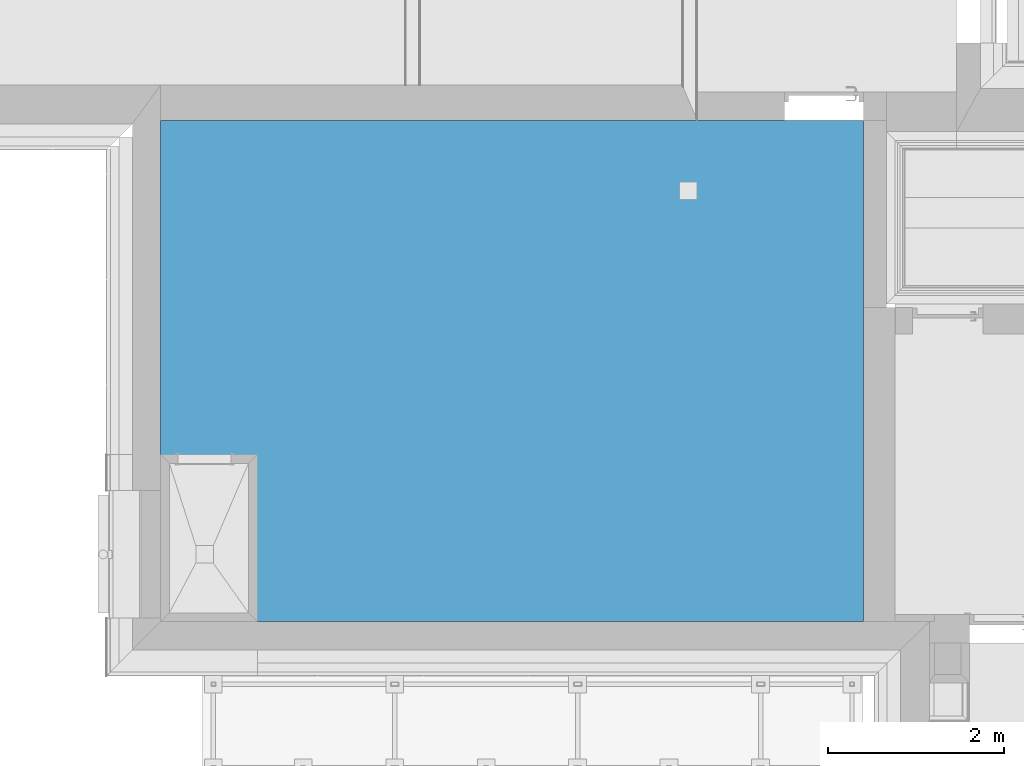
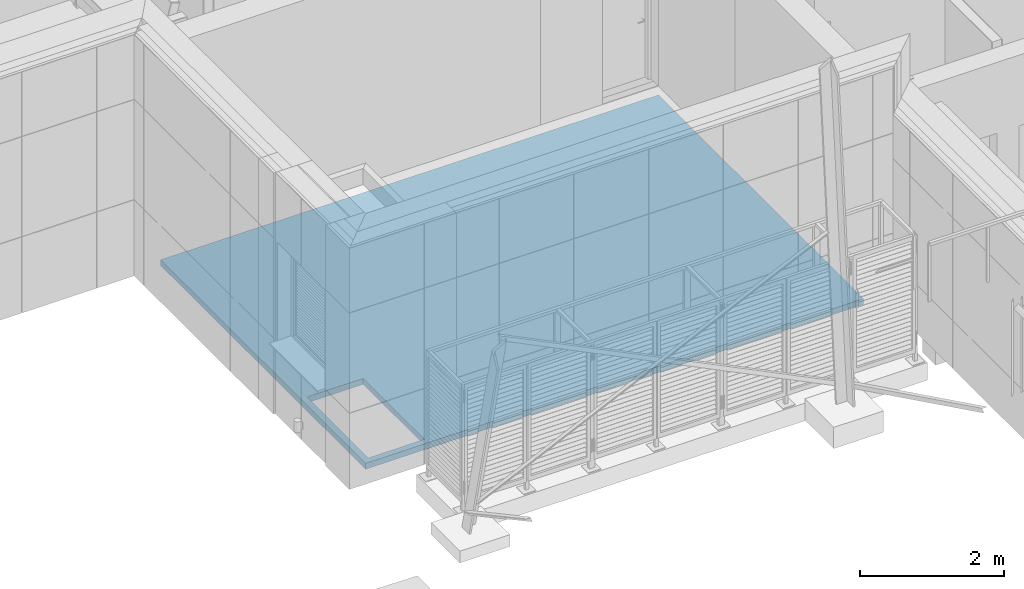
# One storey, part 115 of 418: 1 building element part, 1 opening, 1 element without a shape of its own.
"""IFC2X3 building model written with IfcOpenShell, lengths in millimetres."""

import ifcopenshell
import ifcopenshell.guid

model = None  # the IFC model being written
_history = None  # IfcOwnerHistory: only IFC2X3 demands one
_inside = {}  # id of a spatial element -> (the spatial element, [elements in it])
_under = {}  # id of a project, library or spatial element -> (it, [spatial elements below it])
_declared = {}  # id of a project -> (the project, [libraries it declares])
_typed = {}  # id of a type object -> (the type object, [elements of that type])
_made_of = {}  # id of a material, layer set ... -> (it, [elements and type objects made of it])


def new_model(schema):
    """Start an empty IFC model of exactly this schema.

    Asked for "IFC4X3", IfcOpenShell would pick the latest addendum, in which some entities
    have other attributes; the version numbers below select the first issue.
    IFC2X3 requires an IfcOwnerHistory on every rooted entity: one is made here for all.
    """
    global model, _history
    if schema == "IFC4X3":
        model = ifcopenshell.file(schema_version=(4, 3, 0, 0))
    else:
        model = ifcopenshell.file(schema=schema)
    _inside.clear()
    _under.clear()
    _declared.clear()
    _typed.clear()
    _made_of.clear()
    _history = None
    if model.schema == "IFC2X3":
        org = make("IfcOrganization", Name="unknown")
        user = make(
            "IfcPersonAndOrganization",
            ThePerson=make("IfcPerson", FamilyName="unknown"),
            TheOrganization=org,
        )
        app = make(
            "IfcApplication",
            ApplicationDeveloper=org,
            Version="unknown",
            ApplicationFullName="unknown",
            ApplicationIdentifier="unknown",
        )
        _history = make(
            "IfcOwnerHistory",
            OwningUser=user,
            OwningApplication=app,
            ChangeAction="ADDED",
            CreationDate=0,
        )
    return model


def make(cls, **values):
    """One entity of the class cls with the attributes given. An attribute that is None is left unset."""
    return model.create_entity(
        cls, **{name: value for name, value in values.items() if value is not None}
    )


def entity(cls, *values):
    """Any entity or typed value of the class cls, its attributes in the order of the schema. None: left unset."""
    e = model.create_entity(cls)
    for i, value in enumerate(values):
        if value is not None:
            e[i] = value
    return e


def rooted(cls, **values):
    """An entity with a GlobalId (a new one), such as an element, a storey or a relation."""
    return make(cls, GlobalId=ifcopenshell.guid.new(), OwnerHistory=_history, **values)


def si_unit(unit_type, name, prefix=None):
    """IfcSIUnit, for example si_unit("LENGTHUNIT", "METRE", prefix="MILLI")."""
    return make("IfcSIUnit", UnitType=unit_type, Prefix=prefix, Name=name)


def converted_unit(unit_type, name, factor, base, dimensions=None, offset=None):
    """IfcConversionBasedUnit, such as the inch: factor (a typed value) times the base unit."""
    return make(
        "IfcConversionBasedUnit"
        if offset is None
        else "IfcConversionBasedUnitWithOffset",
        ConversionOffset=offset,
        Dimensions=None
        if dimensions is None
        else entity("IfcDimensionalExponents", *dimensions),
        UnitType=unit_type,
        Name=name,
        ConversionFactor=make(
            "IfcMeasureWithUnit", ValueComponent=factor, UnitComponent=base
        ),
    )


def derived_unit(unit_type, elements):
    """IfcDerivedUnit: a product of units, each with its exponent."""
    return make(
        "IfcDerivedUnit",
        Elements=[
            make("IfcDerivedUnitElement", Unit=unit, Exponent=power)
            for unit, power in elements
        ],
        UnitType=unit_type,
    )


def money_unit(currency):
    """IfcMonetaryUnit."""
    return make("IfcMonetaryUnit", Currency=currency)


def assignment(units):
    """IfcUnitAssignment: the units of a project."""
    return None if units is None else make("IfcUnitAssignment", Units=units)


def point(xyz):
    """IfcCartesianPoint."""
    return None if xyz is None else make("IfcCartesianPoint", Coordinates=xyz)


def direction(xyz):
    """IfcDirection."""
    return None if xyz is None else make("IfcDirection", DirectionRatios=xyz)


def frame(location, z_axis=None, x_axis=None):
    """IfcAxis2Placement3D, a coordinate frame: its origin and axes. An axis left out is left unset."""
    return make(
        "IfcAxis2Placement3D",
        Location=point(location),
        Axis=direction(z_axis),
        RefDirection=direction(x_axis),
    )


def origin_with_axes():
    """The frame at (0, 0, 0) with the z axis (0, 0, 1) and the x axis (1, 0, 0) written out."""
    return frame((0.0, 0.0, 0.0), z_axis=(0.0, 0.0, 1.0), x_axis=(1.0, 0.0, 0.0))


def place(relative_to, where):
    """IfcLocalPlacement: puts the frame where relative to a parent placement (None: the world)."""
    return make(
        "IfcLocalPlacement", PlacementRelTo=relative_to, RelativePlacement=where
    )


def context(
    kind, dimensions, precision=None, world=None, true_north=None, identifier=None
):
    """IfcGeometricRepresentationContext, for example the 3D "Model" context."""
    return make(
        "IfcGeometricRepresentationContext",
        ContextIdentifier=identifier,
        ContextType=kind,
        CoordinateSpaceDimension=dimensions,
        Precision=precision,
        WorldCoordinateSystem=world,
        TrueNorth=true_north,
    )


def subcontext(parent, identifier, kind, view, scale=None):
    """IfcGeometricRepresentationSubContext, for example "Body" below "Model"."""
    return make(
        "IfcGeometricRepresentationSubContext",
        ContextIdentifier=identifier,
        ContextType=kind,
        ParentContext=parent,
        TargetScale=scale,
        TargetView=view,
    )


def project(units=None, contexts=None):
    """IfcProject with its units and contexts."""
    return rooted(
        "IfcProject",
        Name="project",
        RepresentationContexts=contexts,
        UnitsInContext=assignment(units),
    )


def spatial(cls, under=None, at=None, **own):
    """A site, building, storey or space (cls), placed at a placement, below another one or the project."""
    s = rooted(cls, ObjectPlacement=at, **own)
    if under is not None:
        _under.setdefault(under.id(), (under, []))[1].append(s)
    return s


def polyline(points):
    """IfcPolyline through the points."""
    return make("IfcPolyline", Points=[point(p) for p in points])


def outline(outer, holes=None, kind="AREA"):
    """IfcArbitraryClosedProfileDef: a profile drawn as a closed curve; with holes, ...WithVoids."""
    if holes is None:
        return make("IfcArbitraryClosedProfileDef", ProfileType=kind, OuterCurve=outer)
    return make(
        "IfcArbitraryProfileDefWithVoids",
        ProfileType=kind,
        OuterCurve=outer,
        InnerCurves=holes,
    )


def extrude(swept, where, along, depth):
    """IfcExtrudedAreaSolid: the profile swept, set in the frame where, extruded along a direction by depth."""
    return make(
        "IfcExtrudedAreaSolid",
        SweptArea=swept,
        Position=where,
        ExtrudedDirection=direction(along),
        Depth=depth,
    )


def boolean(op, a, b):
    """IfcBooleanResult of two solids."""
    return make("IfcBooleanResult", Operator=op, FirstOperand=a, SecondOperand=b)


def faces_of(points, faces, orient=None, outer=None):
    """IfcFace entities. A face is a list of loops; a loop is a list of indices into points, from 0.

    orient and outer hold one flag for each loop. By default every Orientation is true, the
    first loop of a face is its IfcFaceOuterBound and the others are IfcFaceBound.
    """
    made = []
    for i, loops in enumerate(faces):
        bounds = []
        for j, loop in enumerate(loops):
            is_outer = j == 0 if outer is None else outer[i][j]
            bounds.append(
                make(
                    "IfcFaceOuterBound" if is_outer else "IfcFaceBound",
                    Bound=make("IfcPolyLoop", Polygon=[points[k] for k in loop]),
                    Orientation=True if orient is None else orient[i][j],
                )
            )
        made.append(make("IfcFace", Bounds=bounds))
    return made


def faceted_brep(points, faces, orient=None, outer=None, voids=None):
    """IfcFacetedBrep: a solid bounded by flat faces; with voids (closed shells), ...WithVoids."""
    shared = [point(p) for p in points]
    hull = make("IfcClosedShell", CfsFaces=faces_of(shared, faces, orient, outer))
    if voids is None:
        return make("IfcFacetedBrep", Outer=hull)
    return make(
        "IfcFacetedBrepWithVoids",
        Outer=hull,
        Voids=[
            make(cls, CfsFaces=faces_of(shared, fs, o, b)) for cls, fs, o, b in voids
        ],
    )


def shape(context_of_items, identifier, shape_type, items):
    """IfcShapeRepresentation: the items that make up one representation, for example the "Body"."""
    return make(
        "IfcShapeRepresentation",
        ContextOfItems=context_of_items,
        RepresentationIdentifier=identifier,
        RepresentationType=shape_type,
        Items=items,
    )


def material(Name=None, Category=None):
    """IfcMaterial."""
    return make("IfcMaterial", Name=Name, Category=Category)


def made_of(thing, what):
    """Note that an element or type object is made of a material, layer set ...; save() writes the relation."""
    if what is not None:
        _made_of.setdefault(what.id(), (what, []))[1].append(thing)
    return thing


def type_object(cls, material=None, **own):
    """A type object (cls), such as IfcWallType, which elements share."""
    return made_of(rooted(cls, **own), material)


def element(
    cls,
    number,
    at=None,
    inside=None,
    cuts=None,
    type_object=None,
    material=None,
    context=None,
    identifier="Body",
    shape_type=None,
    held_by="IfcProductDefinitionShape",
    body=None,
    shapes=None,
    **own,
):
    """One element of the class cls, such as IfcWall. Its Tag is "e" and its number.

    at: its placement. inside: the storey or other place that contains it. cuts: it is an
    opening in that element (IfcRelVoidsElement). A single representation is given by context,
    identifier, shape_type and body (its items); several are given by shapes. held_by: the class
    of the entity that holds the representations. save() writes the other relations.
    """
    e = rooted(cls, Tag="e%d" % number, ObjectPlacement=at, **own)
    if body is not None:
        shapes = [shape(context, identifier, shape_type, body)]
    if shapes is not None:
        e.Representation = make(held_by, Representations=shapes)
    if inside is not None:
        _inside.setdefault(inside.id(), (inside, []))[1].append(e)
    if cuts is not None:
        rooted(
            "IfcRelVoidsElement", RelatingBuildingElement=cuts, RelatedOpeningElement=e
        )
    if type_object is not None:
        _typed.setdefault(type_object.id(), (type_object, []))[1].append(e)
    return made_of(e, material)


def aggregate(whole, parts):
    """IfcRelAggregates: a whole, such as a stair, and the parts it consists of."""
    return rooted("IfcRelAggregates", RelatingObject=whole, RelatedObjects=parts)


def save(model, path):
    """Write the relations noted so far, then the file.

    IfcRelAggregates (storeys below a building ...), IfcRelContainedInSpatialStructure (elements
    in a storey), IfcRelDefinesByType, IfcRelAssociatesMaterial and IfcRelDeclares: one each for
    every whole, place, type object, material and project.
    """
    for whole, parts in _under.values():
        aggregate(whole, parts)
    for where, things in _inside.values():
        rooted(
            "IfcRelContainedInSpatialStructure",
            RelatedElements=things,
            RelatingStructure=where,
        )
    for kind, things in _typed.values():
        rooted("IfcRelDefinesByType", RelatedObjects=things, RelatingType=kind)
    for what, things in _made_of.values():
        rooted("IfcRelAssociatesMaterial", RelatedObjects=things, RelatingMaterial=what)
    for by, libraries in _declared.values():
        rooted("IfcRelDeclares", RelatingContext=by, RelatedDefinitions=libraries)
    model.write(path)


model = new_model("IFC2X3")

# Units and contexts
model_context = context("Model", 3, precision=0.01, world=origin_with_axes(), true_north=direction((0.0, 1.0)))
body_context = subcontext(model_context, "Body", "Model", "MODEL_VIEW")
ifc_project = project(units=[si_unit("LENGTHUNIT", "METRE", prefix="MILLI"), si_unit("AREAUNIT", "SQUARE_METRE"), si_unit("VOLUMEUNIT", "CUBIC_METRE"), converted_unit("PLANEANGLEUNIT", "DEGREE", entity("IfcPlaneAngleMeasure", 0.0174532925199), si_unit("PLANEANGLEUNIT", "RADIAN"), dimensions=[0, 0, 0, 0, 0, 0, 0]), si_unit("SOLIDANGLEUNIT", "STERADIAN"), money_unit("EUR"), converted_unit("TIMEUNIT", "Year", entity("IfcTimeMeasure", 31556926.0), si_unit("TIMEUNIT", "SECOND"), dimensions=[0, 0, 1, 0, 0, 0, 0]), si_unit("MASSUNIT", "GRAM", prefix="KILO"), si_unit("THERMODYNAMICTEMPERATUREUNIT", "DEGREE_CELSIUS"), si_unit("LUMINOUSINTENSITYUNIT", "LUMEN"), si_unit("ENERGYUNIT", "JOULE", prefix="MEGA"), derived_unit("THERMALCONDUCTANCEUNIT", [(si_unit("POWERUNIT", "WATT"), 1), (si_unit("LENGTHUNIT", "METRE"), -1), (si_unit("THERMODYNAMICTEMPERATUREUNIT", "KELVIN"), -1)]), derived_unit("SPECIFICHEATCAPACITYUNIT", [(si_unit("ENERGYUNIT", "JOULE"), 1), (si_unit("MASSUNIT", "GRAM", prefix="KILO"), -1), (si_unit("THERMODYNAMICTEMPERATUREUNIT", "KELVIN"), -1)]), derived_unit("MASSDENSITYUNIT", [(si_unit("MASSUNIT", "GRAM", prefix="KILO"), 1), (si_unit("VOLUMEUNIT", "CUBIC_METRE"), -1)])], contexts=[model_context])

# Site, building, storey
site_placement = place(None, origin_with_axes())
site = spatial("IfcSite", under=ifc_project, at=site_placement, Name="Paldiski mnt 245/1, Tallinn, Harjumaa", CompositionType="COMPLEX")
building_placement = place(site_placement, origin_with_axes())
building = spatial("IfcBuilding", under=site, at=building_placement, Name="RKAS Hoone üldnimetus (kasutust iseloomustav) -> IFC Project Manager -> SOLIBRI", CompositionType="ELEMENT")
storey_placement = place(building_placement, origin_with_axes())
storey = spatial("IfcBuildingStorey", under=building, at=storey_placement, Name="Esimene korrus", CompositionType="ELEMENT", Elevation=0.0)

# Slab, opening, building element part
slab_type = type_object("IfcSlabType", Name="AP-01 350", PredefinedType="NOTDEFINED")
slab_placement = place(storey_placement, frame((-56390.0, 130.000000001, 0.0), z_axis=(0.0, 0.0, 1.0), x_axis=(1.0, 0.0, 0.0)))
slab = element("IfcSlab", 1, at=slab_placement, inside=storey, type_object=slab_type, Name="AP-01", PredefinedType="NOTDEFINED")
opening_placement = place(slab_placement, frame((100.0, 1799.99992126, 0.0), z_axis=(0.0, 0.0, 1.0), x_axis=(0.0, -1.0, 0.0)))
element("IfcOpeningElement", 2, at=opening_placement, cuts=slab, Name="Slab Opening", context=body_context, shape_type="SweptSolid", body=[
    extrude(outline(polyline([(0.0, 0.0), (1699.99992126, 0.0), (1699.99992126, 900.000023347), (0.0, 900.000023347), (0.0, 0.0)])), frame((0.0, 0.0, -350.0), z_axis=(0.0, 0.0, 1.0), x_axis=(1.0, 0.0, 0.0)), (0.0, 0.0, 1.0), 350.0),
])
ifc_material = material(Name="EPS 200")
building_element_part_placement = place(slab_placement, origin_with_axes())
building_element_part = element("IfcBuildingElementPart", 3, at=building_element_part_placement, material=ifc_material, Name="EPS 200", context=body_context, shape_type="CSG", body=[
    boolean("DIFFERENCE", extrude(outline(polyline([(0.0, 0.0), (7990.0, -1.84741111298e-10), (7990.0, 5700.0), (1.42108547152e-10, 5700.0), (0.0, 0.0)])), frame((0.0, 0.0, -250.0), z_axis=(0.0, 0.0, 1.0), x_axis=(1.0, 0.0, 0.0)), (0.0, 0.0, 1.0), 100.0), faceted_brep([(5900.0, 4796.74087395, 0.0), (6100.0, 4796.74087395, 0.0), (6100.0, 4996.74087395, 0.0), (5900.0, 4996.74087395, 0.0), (5900.0, 4796.74087395, -15.0), (6100.0, 4796.74087395, -15.0), (6100.0, 4996.74087395, -15.0), (5900.0, 4996.74087395, -15.0), (5904.0, 4800.74087395, -15.0), (5924.5, 4800.74087395, -15.0), (5924.5, 4821.24087395, -15.0), (5924.5, 4825.24087395, -15.0), (5924.5, 4845.74087395, -15.0), (5924.5, 4849.74087395, -15.0), (5924.5, 4870.24087395, -15.0), (5924.5, 4874.24087395, -15.0), (5924.5, 4894.74087395, -15.0), (5924.5, 4898.74087395, -15.0), (5924.5, 4919.24087395, -15.0), (5924.5, 4923.24087395, -15.0), (5924.5, 4943.74087395, -15.0), (5924.5, 4947.74087395, -15.0), (5924.5, 4968.24087395, -15.0), (5924.5, 4972.24087395, -15.0), (5924.5, 4992.74087395, -15.0), (5928.5, 4992.74087395, -15.0), (5928.5, 4972.24087395, -15.0), (5928.5, 4968.24087395, -15.0), (5928.5, 4947.74087395, -15.0), (5928.5, 4943.74087395, -15.0), (5928.5, 4923.24087395, -15.0), (5928.5, 4919.24087395, -15.0), (5928.5, 4898.74087395, -15.0), (5928.5, 4894.74087395, -15.0), (5928.5, 4874.24087395, -15.0), (5928.5, 4870.24087395, -15.0), (5928.5, 4849.74087395, -15.0), (5928.5, 4845.74087395, -15.0), (5928.5, 4825.24087395, -15.0), (5928.5, 4821.24087395, -15.0), (5928.5, 4800.74087395, -15.0), (5949.0, 4800.74087395, -15.0), (5949.0, 4821.24087395, -15.0), (5949.0, 4825.24087395, -15.0), (5949.0, 4845.74087395, -15.0), (5949.0, 4849.74087395, -15.0), (5949.0, 4870.24087395, -15.0), (5949.0, 4874.24087395, -15.0), (5949.0, 4894.74087395, -15.0), (5949.0, 4898.74087395, -15.0), (5949.0, 4919.24087395, -15.0), (5949.0, 4923.24087395, -15.0), (5949.0, 4943.74087395, -15.0), (5949.0, 4947.74087395, -15.0), (5949.0, 4968.24087395, -15.0), (5949.0, 4972.24087395, -15.0), (5949.0, 4992.74087395, -15.0), (5953.0, 4992.74087395, -15.0), (5953.0, 4972.24087395, -15.0), (5953.0, 4968.24087395, -15.0), (5953.0, 4947.74087395, -15.0), (5953.0, 4943.74087395, -15.0), (5953.0, 4923.24087395, -15.0), (5953.0, 4919.24087395, -15.0), (5953.0, 4898.74087395, -15.0), (5953.0, 4894.74087395, -15.0), (5953.0, 4874.24087395, -15.0), (5953.0, 4870.24087395, -15.0), (5953.0, 4849.74087395, -15.0), (5953.0, 4845.74087395, -15.0), (5953.0, 4825.24087395, -15.0), (5953.0, 4821.24087395, -15.0), (5953.0, 4800.74087395, -15.0), (5973.5, 4800.74087395, -15.0), (5973.5, 4821.24087395, -15.0), (5973.5, 4825.24087395, -15.0), (5973.5, 4845.74087395, -15.0), (5973.5, 4849.74087395, -15.0), (5973.5, 4870.24087395, -15.0), (5973.5, 4874.24087395, -15.0), (5973.5, 4894.74087395, -15.0), (5973.5, 4898.74087395, -15.0), (5973.5, 4919.24087395, -15.0), (5973.5, 4923.24087395, -15.0), (5973.5, 4943.74087395, -15.0), (5973.5, 4947.74087395, -15.0), (5973.5, 4968.24087395, -15.0), (5973.5, 4972.24087395, -15.0), (5973.5, 4992.74087395, -15.0), (5977.5, 4992.74087395, -15.0), (5977.5, 4972.24087395, -15.0), (5977.5, 4968.24087395, -15.0), (5977.5, 4947.74087395, -15.0), (5977.5, 4943.74087395, -15.0), (5977.5, 4923.24087395, -15.0), (5977.5, 4919.24087395, -15.0), (5977.5, 4898.74087395, -15.0), (5977.5, 4894.74087395, -15.0), (5977.5, 4874.24087395, -15.0), (5977.5, 4870.24087395, -15.0), (5977.5, 4849.74087395, -15.0), (5977.5, 4845.74087395, -15.0), (5977.5, 4825.24087395, -15.0), (5977.5, 4821.24087395, -15.0), (5977.5, 4800.74087395, -15.0), (5998.0, 4800.74087395, -15.0), (5998.0, 4821.24087395, -15.0), (5998.0, 4825.24087395, -15.0), (5998.0, 4845.74087395, -15.0), (5998.0, 4849.74087395, -15.0), (5998.0, 4870.24087395, -15.0), (5998.0, 4874.24087395, -15.0), (5998.0, 4894.74087395, -15.0), (5998.0, 4898.74087395, -15.0), (5998.0, 4919.24087395, -15.0), (5998.0, 4923.24087395, -15.0), (5998.0, 4943.74087395, -15.0), (5998.0, 4947.74087395, -15.0), (5998.0, 4968.24087395, -15.0), (5998.0, 4972.24087395, -15.0), (5998.0, 4992.74087395, -15.0), (6002.0, 4992.74087395, -15.0), (6002.0, 4972.24087395, -15.0), (6002.0, 4968.24087395, -15.0), (6002.0, 4947.74087395, -15.0), (6002.0, 4943.74087395, -15.0), (6002.0, 4923.24087395, -15.0), (6002.0, 4919.24087395, -15.0), (6002.0, 4898.74087395, -15.0), (6002.0, 4894.74087395, -15.0), (6002.0, 4874.24087395, -15.0), (6002.0, 4870.24087395, -15.0), (6002.0, 4849.74087395, -15.0), (6002.0, 4845.74087395, -15.0), (6002.0, 4825.24087395, -15.0), (6002.0, 4821.24087395, -15.0), (6002.0, 4800.74087395, -15.0), (6022.5, 4800.74087395, -15.0), (6022.5, 4821.24087395, -15.0), (6022.5, 4825.24087395, -15.0), (6022.5, 4845.74087395, -15.0), (6022.5, 4849.74087395, -15.0), (6022.5, 4870.24087395, -15.0), (6022.5, 4874.24087395, -15.0), (6022.5, 4894.74087395, -15.0), (6022.5, 4898.74087395, -15.0), (6022.5, 4919.24087395, -15.0), (6022.5, 4923.24087395, -15.0), (6022.5, 4943.74087395, -15.0), (6022.5, 4947.74087395, -15.0), (6022.5, 4968.24087395, -15.0), (6022.5, 4972.24087395, -15.0), (6022.5, 4992.74087395, -15.0), (6026.5, 4992.74087395, -15.0), (6026.5, 4972.24087395, -15.0), (6026.5, 4968.24087395, -15.0), (6026.5, 4947.74087395, -15.0), (6026.5, 4943.74087395, -15.0), (6026.5, 4923.24087395, -15.0), (6026.5, 4919.24087395, -15.0), (6026.5, 4898.74087395, -15.0), (6026.5, 4894.74087395, -15.0), (6026.5, 4874.24087395, -15.0), (6026.5, 4870.24087395, -15.0), (6026.5, 4849.74087395, -15.0), (6026.5, 4845.74087395, -15.0), (6026.5, 4825.24087395, -15.0), (6026.5, 4821.24087395, -15.0), (6026.5, 4800.74087395, -15.0), (6047.0, 4800.74087395, -15.0), (6047.0, 4821.24087395, -15.0), (6047.0, 4825.24087395, -15.0), (6047.0, 4845.74087395, -15.0), (6047.0, 4849.74087395, -15.0), (6047.0, 4870.24087395, -15.0), (6047.0, 4874.24087395, -15.0), (6047.0, 4894.74087395, -15.0), (6047.0, 4898.74087395, -15.0), (6047.0, 4919.24087395, -15.0), (6047.0, 4923.24087395, -15.0), (6047.0, 4943.74087395, -15.0), (6047.0, 4947.74087395, -15.0), (6047.0, 4968.24087395, -15.0), (6047.0, 4972.24087395, -15.0), (6047.0, 4992.74087395, -15.0), (6051.0, 4992.74087395, -15.0), (6051.0, 4972.24087395, -15.0), (6051.0, 4968.24087395, -15.0), (6051.0, 4947.74087395, -15.0), (6051.0, 4943.74087395, -15.0), (6051.0, 4923.24087395, -15.0), (6051.0, 4919.24087395, -15.0), (6051.0, 4898.74087395, -15.0), (6051.0, 4894.74087395, -15.0), (6051.0, 4874.24087395, -15.0), (6051.0, 4870.24087395, -15.0), (6051.0, 4849.74087395, -15.0), (6051.0, 4845.74087395, -15.0), (6051.0, 4825.24087395, -15.0), (6051.0, 4821.24087395, -15.0), (6051.0, 4800.74087395, -15.0), (6071.5, 4800.74087395, -15.0), (6071.5, 4821.24087395, -15.0), (6071.5, 4825.24087395, -15.0), (6071.5, 4845.74087395, -15.0), (6071.5, 4849.74087395, -15.0), (6071.5, 4870.24087395, -15.0), (6071.5, 4874.24087395, -15.0), (6071.5, 4894.74087395, -15.0), (6071.5, 4898.74087395, -15.0), (6071.5, 4919.24087395, -15.0), (6071.5, 4923.24087395, -15.0), (6071.5, 4943.74087395, -15.0), (6071.5, 4947.74087395, -15.0), (6071.5, 4968.24087395, -15.0), (6071.5, 4972.24087395, -15.0), (6071.5, 4992.74087395, -15.0), (6075.5, 4992.74087395, -15.0), (6075.5, 4972.24087395, -15.0), (6075.5, 4968.24087395, -15.0), (6075.5, 4947.74087395, -15.0), (6075.5, 4943.74087395, -15.0), (6075.5, 4923.24087395, -15.0), (6075.5, 4919.24087395, -15.0), (6075.5, 4898.74087395, -15.0), (6075.5, 4894.74087395, -15.0), (6075.5, 4874.24087395, -15.0), (6075.5, 4870.24087395, -15.0), (6075.5, 4849.74087395, -15.0), (6075.5, 4845.74087395, -15.0), (6075.5, 4825.24087395, -15.0), (6075.5, 4821.24087395, -15.0), (6075.5, 4800.74087395, -15.0), (6096.0, 4800.74087395, -15.0), (6096.0, 4821.24087395, -15.0), (6096.0, 4825.24087395, -15.0), (6096.0, 4845.74087395, -15.0), (6096.0, 4849.74087395, -15.0), (6096.0, 4870.24087395, -15.0), (6096.0, 4874.24087395, -15.0), (6096.0, 4894.74087395, -15.0), (6096.0, 4898.74087395, -15.0), (6096.0, 4919.24087395, -15.0), (6096.0, 4923.24087395, -15.0), (6096.0, 4943.74087395, -15.0), (6096.0, 4947.74087395, -15.0), (6096.0, 4968.24087395, -15.0), (6096.0, 4972.24087395, -15.0), (6096.0, 4992.74087395, -15.0), (5904.0, 4992.74087395, -15.0), (5904.0, 4972.24087395, -15.0), (5904.0, 4968.24087395, -15.0), (5904.0, 4947.74087395, -15.0), (5904.0, 4943.74087395, -15.0), (5904.0, 4923.24087395, -15.0), (5904.0, 4919.24087395, -15.0), (5904.0, 4898.74087395, -15.0), (5904.0, 4894.74087395, -15.0), (5904.0, 4874.24087395, -15.0), (5904.0, 4870.24087395, -15.0), (5904.0, 4849.74087395, -15.0), (5904.0, 4845.74087395, -15.0), (5904.0, 4825.24087395, -15.0), (5904.0, 4821.24087395, -15.0), (5904.0, 4800.74087395, -13.85), (5924.5, 4800.74087395, -13.85), (5924.5, 4821.24087395, -13.85), (5924.5, 4825.24087395, -13.85), (5924.5, 4845.74087395, -13.85), (5924.5, 4849.74087395, -13.85), (5924.5, 4870.24087395, -13.85), (5924.5, 4874.24087395, -13.85), (5924.5, 4894.74087395, -13.85), (5924.5, 4898.74087395, -13.85), (5924.5, 4919.24087395, -13.85), (5924.5, 4923.24087395, -13.85), (5924.5, 4943.74087395, -13.85), (5924.5, 4947.74087395, -13.85), (5924.5, 4968.24087395, -13.85), (5924.5, 4972.24087395, -13.85), (5924.5, 4992.74087395, -13.85), (5928.5, 4992.74087395, -13.85), (5928.5, 4972.24087395, -13.85), (5928.5, 4968.24087395, -13.85), (5928.5, 4947.74087395, -13.85), (5928.5, 4943.74087395, -13.85), (5928.5, 4923.24087395, -13.85), (5928.5, 4919.24087395, -13.85), (5928.5, 4898.74087395, -13.85), (5928.5, 4894.74087395, -13.85), (5928.5, 4874.24087395, -13.85), (5928.5, 4870.24087395, -13.85), (5928.5, 4849.74087395, -13.85), (5928.5, 4845.74087395, -13.85), (5928.5, 4825.24087395, -13.85), (5928.5, 4821.24087395, -13.85), (5928.5, 4800.74087395, -13.85), (5949.0, 4800.74087395, -13.85), (5949.0, 4821.24087395, -13.85), (5949.0, 4825.24087395, -13.85), (5949.0, 4845.74087395, -13.85), (5949.0, 4849.74087395, -13.85), (5949.0, 4870.24087395, -13.85), (5949.0, 4874.24087395, -13.85), (5949.0, 4894.74087395, -13.85), (5949.0, 4898.74087395, -13.85), (5949.0, 4919.24087395, -13.85), (5949.0, 4923.24087395, -13.85), (5949.0, 4943.74087395, -13.85), (5949.0, 4947.74087395, -13.85), (5949.0, 4968.24087395, -13.85), (5949.0, 4972.24087395, -13.85), (5949.0, 4992.74087395, -13.85), (5953.0, 4992.74087395, -13.85), (5953.0, 4972.24087395, -13.85), (5953.0, 4968.24087395, -13.85), (5953.0, 4947.74087395, -13.85), (5953.0, 4943.74087395, -13.85), (5953.0, 4923.24087395, -13.85), (5953.0, 4919.24087395, -13.85), (5953.0, 4898.74087395, -13.85), (5953.0, 4894.74087395, -13.85), (5953.0, 4874.24087395, -13.85), (5953.0, 4870.24087395, -13.85), (5953.0, 4849.74087395, -13.85), (5953.0, 4845.74087395, -13.85), (5953.0, 4825.24087395, -13.85), (5953.0, 4821.24087395, -13.85), (5953.0, 4800.74087395, -13.85), (5973.5, 4800.74087395, -13.85), (5973.5, 4821.24087395, -13.85), (5973.5, 4825.24087395, -13.85), (5973.5, 4845.74087395, -13.85), (5973.5, 4849.74087395, -13.85), (5973.5, 4870.24087395, -13.85), (5973.5, 4874.24087395, -13.85), (5973.5, 4894.74087395, -13.85), (5973.5, 4898.74087395, -13.85), (5973.5, 4919.24087395, -13.85), (5973.5, 4923.24087395, -13.85), (5973.5, 4943.74087395, -13.85), (5973.5, 4947.74087395, -13.85), (5973.5, 4968.24087395, -13.85), (5973.5, 4972.24087395, -13.85), (5973.5, 4992.74087395, -13.85), (5977.5, 4992.74087395, -13.85), (5977.5, 4972.24087395, -13.85), (5977.5, 4968.24087395, -13.85), (5977.5, 4947.74087395, -13.85), (5977.5, 4943.74087395, -13.85), (5977.5, 4923.24087395, -13.85), (5977.5, 4919.24087395, -13.85), (5977.5, 4898.74087395, -13.85), (5977.5, 4894.74087395, -13.85), (5977.5, 4874.24087395, -13.85), (5977.5, 4870.24087395, -13.85), (5977.5, 4849.74087395, -13.85), (5977.5, 4845.74087395, -13.85), (5977.5, 4825.24087395, -13.85), (5977.5, 4821.24087395, -13.85), (5977.5, 4800.74087395, -13.85), (5998.0, 4800.74087395, -13.85), (5998.0, 4821.24087395, -13.85), (5998.0, 4825.24087395, -13.85), (5998.0, 4845.74087395, -13.85), (5998.0, 4849.74087395, -13.85), (5998.0, 4870.24087395, -13.85), (5998.0, 4874.24087395, -13.85), (5998.0, 4894.74087395, -13.85), (5998.0, 4898.74087395, -13.85), (5998.0, 4919.24087395, -13.85), (5998.0, 4923.24087395, -13.85), (5998.0, 4943.74087395, -13.85), (5998.0, 4947.74087395, -13.85), (5998.0, 4968.24087395, -13.85), (5998.0, 4972.24087395, -13.85), (5998.0, 4992.74087395, -13.85), (6002.0, 4992.74087395, -13.85), (6002.0, 4972.24087395, -13.85), (6002.0, 4968.24087395, -13.85), (6002.0, 4947.74087395, -13.85), (6002.0, 4943.74087395, -13.85), (6002.0, 4923.24087395, -13.85), (6002.0, 4919.24087395, -13.85), (6002.0, 4898.74087395, -13.85), (6002.0, 4894.74087395, -13.85), (6002.0, 4874.24087395, -13.85), (6002.0, 4870.24087395, -13.85), (6002.0, 4849.74087395, -13.85), (6002.0, 4845.74087395, -13.85), (6002.0, 4825.24087395, -13.85), (6002.0, 4821.24087395, -13.85), (6002.0, 4800.74087395, -13.85), (6022.5, 4800.74087395, -13.85), (6022.5, 4821.24087395, -13.85), (6022.5, 4825.24087395, -13.85), (6022.5, 4845.74087395, -13.85), (6022.5, 4849.74087395, -13.85), (6022.5, 4870.24087395, -13.85), (6022.5, 4874.24087395, -13.85), (6022.5, 4894.74087395, -13.85), (6022.5, 4898.74087395, -13.85), (6022.5, 4919.24087395, -13.85), (6022.5, 4923.24087395, -13.85), (6022.5, 4943.74087395, -13.85), (6022.5, 4947.74087395, -13.85), (6022.5, 4968.24087395, -13.85), (6022.5, 4972.24087395, -13.85), (6022.5, 4992.74087395, -13.85), (6026.5, 4992.74087395, -13.85), (6026.5, 4972.24087395, -13.85), (6026.5, 4968.24087395, -13.85), (6026.5, 4947.74087395, -13.85), (6026.5, 4943.74087395, -13.85), (6026.5, 4923.24087395, -13.85), (6026.5, 4919.24087395, -13.85), (6026.5, 4898.74087395, -13.85), (6026.5, 4894.74087395, -13.85), (6026.5, 4874.24087395, -13.85), (6026.5, 4870.24087395, -13.85), (6026.5, 4849.74087395, -13.85), (6026.5, 4845.74087395, -13.85), (6026.5, 4825.24087395, -13.85), (6026.5, 4821.24087395, -13.85), (6026.5, 4800.74087395, -13.85), (6047.0, 4800.74087395, -13.85), (6047.0, 4821.24087395, -13.85), (6047.0, 4825.24087395, -13.85), (6047.0, 4845.74087395, -13.85), (6047.0, 4849.74087395, -13.85), (6047.0, 4870.24087395, -13.85), (6047.0, 4874.24087395, -13.85), (6047.0, 4894.74087395, -13.85), (6047.0, 4898.74087395, -13.85), (6047.0, 4919.24087395, -13.85), (6047.0, 4923.24087395, -13.85), (6047.0, 4943.74087395, -13.85), (6047.0, 4947.74087395, -13.85), (6047.0, 4968.24087395, -13.85), (6047.0, 4972.24087395, -13.85), (6047.0, 4992.74087395, -13.85), (6051.0, 4992.74087395, -13.85), (6051.0, 4972.24087395, -13.85), (6051.0, 4968.24087395, -13.85), (6051.0, 4947.74087395, -13.85), (6051.0, 4943.74087395, -13.85), (6051.0, 4923.24087395, -13.85), (6051.0, 4919.24087395, -13.85), (6051.0, 4898.74087395, -13.85), (6051.0, 4894.74087395, -13.85), (6051.0, 4874.24087395, -13.85), (6051.0, 4870.24087395, -13.85), (6051.0, 4849.74087395, -13.85), (6051.0, 4845.74087395, -13.85), (6051.0, 4825.24087395, -13.85), (6051.0, 4821.24087395, -13.85), (6051.0, 4800.74087395, -13.85), (6071.5, 4800.74087395, -13.85), (6071.5, 4821.24087395, -13.85), (6071.5, 4825.24087395, -13.85), (6071.5, 4845.74087395, -13.85), (6071.5, 4849.74087395, -13.85), (6071.5, 4870.24087395, -13.85), (6071.5, 4874.24087395, -13.85), (6071.5, 4894.74087395, -13.85), (6071.5, 4898.74087395, -13.85), (6071.5, 4919.24087395, -13.85), (6071.5, 4923.24087395, -13.85), (6071.5, 4943.74087395, -13.85), (6071.5, 4947.74087395, -13.85), (6071.5, 4968.24087395, -13.85), (6071.5, 4972.24087395, -13.85), (6071.5, 4992.74087395, -13.85), (6075.5, 4992.74087395, -13.85), (6075.5, 4972.24087395, -13.85), (6075.5, 4968.24087395, -13.85), (6075.5, 4947.74087395, -13.85), (6075.5, 4943.74087395, -13.85), (6075.5, 4923.24087395, -13.85), (6075.5, 4919.24087395, -13.85), (6075.5, 4898.74087395, -13.85), (6075.5, 4894.74087395, -13.85), (6075.5, 4874.24087395, -13.85), (6075.5, 4870.24087395, -13.85), (6075.5, 4849.74087395, -13.85), (6075.5, 4845.74087395, -13.85), (6075.5, 4825.24087395, -13.85), (6075.5, 4821.24087395, -13.85), (6075.5, 4800.74087395, -13.85), (6096.0, 4800.74087395, -13.85), (6096.0, 4821.24087395, -13.85), (6096.0, 4825.24087395, -13.85), (6096.0, 4845.74087395, -13.85), (6096.0, 4849.74087395, -13.85), (6096.0, 4870.24087395, -13.85), (6096.0, 4874.24087395, -13.85), (6096.0, 4894.74087395, -13.85), (6096.0, 4898.74087395, -13.85), (6096.0, 4919.24087395, -13.85), (6096.0, 4923.24087395, -13.85), (6096.0, 4943.74087395, -13.85), (6096.0, 4947.74087395, -13.85), (6096.0, 4968.24087395, -13.85), (6096.0, 4972.24087395, -13.85), (6096.0, 4992.74087395, -13.85), (5904.0, 4992.74087395, -13.85), (5904.0, 4972.24087395, -13.85), (5904.0, 4968.24087395, -13.85), (5904.0, 4947.74087395, -13.85), (5904.0, 4943.74087395, -13.85), (5904.0, 4923.24087395, -13.85), (5904.0, 4919.24087395, -13.85), (5904.0, 4898.74087395, -13.85), (5904.0, 4894.74087395, -13.85), (5904.0, 4874.24087395, -13.85), (5904.0, 4870.24087395, -13.85), (5904.0, 4849.74087395, -13.85), (5904.0, 4845.74087395, -13.85), (5904.0, 4825.24087395, -13.85), (5904.0, 4821.24087395, -13.85)], [[[0, 1, 2, 3]], [[1, 0, 4, 5]], [[2, 1, 5, 6]], [[3, 2, 6, 7]], [[0, 3, 7, 4]], [[4, 8, 9, 10, 11, 12, 13, 14, 15, 16, 17, 18, 19, 20, 21, 22, 23, 24, 25, 26, 27, 28, 29, 30, 31, 32, 33, 34, 35, 36, 37, 38, 39, 40, 41, 42, 43, 44, 45, 46, 47, 48, 49, 50, 51, 52, 53, 54, 55, 56, 57, 58, 59, 60, 61, 62, 63, 64, 65, 66, 67, 68, 69, 70, 71, 72, 73, 74, 75, 76, 77, 78, 79, 80, 81, 82, 83, 84, 85, 86, 87, 88, 89, 90, 91, 92, 93, 94, 95, 96, 97, 98, 99, 100, 101, 102, 103, 104, 105, 106, 107, 108, 109, 110, 111, 112, 113, 114, 115, 116, 117, 118, 119, 120, 121, 122, 123, 124, 125, 126, 127, 128, 129, 130, 131, 132, 133, 134, 135, 136, 137, 138, 139, 140, 141, 142, 143, 144, 145, 146, 147, 148, 149, 150, 151, 152, 153, 154, 155, 156, 157, 158, 159, 160, 161, 162, 163, 164, 165, 166, 167, 168, 169, 170, 171, 172, 173, 174, 175, 176, 177, 178, 179, 180, 181, 182, 183, 184, 185, 186, 187, 188, 189, 190, 191, 192, 193, 194, 195, 196, 197, 198, 199, 200, 201, 202, 203, 204, 205, 206, 207, 208, 209, 210, 211, 212, 213, 214, 215, 216, 217, 218, 219, 220, 221, 222, 223, 224, 225, 226, 227, 228, 229, 230, 231, 232, 233, 5]], [[8, 4, 7, 6, 5, 233, 234, 235, 236, 237, 238, 239, 240, 241, 242, 243, 244, 245, 246, 247, 248, 217, 216, 185, 184, 153, 152, 121, 120, 89, 88, 57, 56, 25, 24, 249, 250, 251, 252, 253, 254, 255, 256, 257, 258, 259, 260, 261, 262, 263]], [[264, 265, 9, 8]], [[10, 9, 265, 266]], [[262, 11, 10, 263]], [[12, 11, 267, 268]], [[260, 13, 12, 261]], [[14, 13, 269, 270]], [[258, 15, 14, 259]], [[16, 15, 271, 272]], [[256, 17, 16, 257]], [[18, 17, 273, 274]], [[255, 254, 19, 18]], [[20, 19, 275, 276]], [[21, 20, 253, 252]], [[22, 21, 277, 278]], [[23, 22, 251, 250]], [[279, 280, 24, 23]], [[26, 25, 281, 282]], [[55, 54, 27, 26]], [[28, 27, 283, 284]], [[53, 52, 29, 28]], [[30, 29, 285, 286]], [[51, 50, 31, 30]], [[32, 31, 287, 288]], [[49, 48, 33, 32]], [[34, 33, 289, 290]], [[34, 47, 46, 35]], [[36, 35, 291, 292]], [[36, 45, 44, 37]], [[38, 37, 293, 294]], [[38, 43, 42, 39]], [[40, 39, 295, 296]], [[296, 297, 41, 40]], [[42, 41, 297, 298]], [[44, 43, 299, 300]], [[46, 45, 301, 302]], [[48, 47, 303, 304]], [[50, 49, 305, 306]], [[52, 51, 307, 308]], [[54, 53, 309, 310]], [[311, 312, 56, 55]], [[58, 57, 313, 314]], [[58, 87, 86, 59]], [[60, 59, 315, 316]], [[85, 84, 61, 60]], [[62, 61, 317, 318]], [[62, 83, 82, 63]], [[64, 63, 319, 320]], [[65, 64, 81, 80]], [[66, 65, 321, 322]], [[79, 78, 67, 66]], [[68, 67, 323, 324]], [[68, 77, 76, 69]], [[70, 69, 325, 326]], [[75, 74, 71, 70]], [[72, 71, 327, 328]], [[328, 329, 73, 72]], [[74, 73, 329, 330]], [[76, 75, 331, 332]], [[78, 77, 333, 334]], [[80, 79, 335, 336]], [[82, 81, 337, 338]], [[84, 83, 339, 340]], [[86, 85, 341, 342]], [[343, 344, 88, 87]], [[345, 346, 90, 89]], [[119, 118, 91, 90]], [[92, 91, 347, 348]], [[92, 117, 116, 93]], [[94, 93, 349, 350]], [[94, 115, 114, 95]], [[96, 95, 351, 352]], [[97, 96, 113, 112]], [[98, 97, 353, 354]], [[111, 110, 99, 98]], [[100, 99, 355, 356]], [[109, 108, 101, 100]], [[102, 101, 357, 358]], [[107, 106, 103, 102]], [[104, 103, 359, 360]], [[360, 361, 105, 104]], [[106, 105, 361, 362]], [[108, 107, 363, 364]], [[110, 109, 365, 366]], [[112, 111, 367, 368]], [[114, 113, 369, 370]], [[116, 115, 371, 372]], [[118, 117, 373, 374]], [[120, 119, 375, 376]], [[122, 121, 377, 378]], [[122, 151, 150, 123]], [[124, 123, 379, 380]], [[124, 149, 148, 125]], [[126, 125, 381, 382]], [[126, 147, 146, 127]], [[128, 127, 383, 384]], [[128, 145, 144, 129]], [[130, 129, 385, 386]], [[143, 142, 131, 130]], [[132, 131, 387, 388]], [[141, 140, 133, 132]], [[134, 133, 389, 390]], [[134, 139, 138, 135]], [[136, 135, 391, 392]], [[392, 393, 137, 136]], [[138, 137, 393, 394]], [[140, 139, 395, 396]], [[142, 141, 397, 398]], [[144, 143, 399, 400]], [[146, 145, 401, 402]], [[148, 147, 403, 404]], [[150, 149, 405, 406]], [[407, 408, 152, 151]], [[154, 153, 409, 410]], [[183, 182, 155, 154]], [[156, 155, 411, 412]], [[181, 180, 157, 156]], [[158, 157, 413, 414]], [[179, 178, 159, 158]], [[160, 159, 415, 416]], [[177, 176, 161, 160]], [[162, 161, 417, 418]], [[175, 174, 163, 162]], [[164, 163, 419, 420]], [[164, 173, 172, 165]], [[166, 165, 421, 422]], [[171, 170, 167, 166]], [[168, 167, 423, 424]], [[424, 425, 169, 168]], [[170, 169, 425, 426]], [[172, 171, 427, 428]], [[174, 173, 429, 430]], [[176, 175, 431, 432]], [[178, 177, 433, 434]], [[180, 179, 435, 436]], [[182, 181, 437, 438]], [[439, 440, 184, 183]], [[186, 185, 441, 442]], [[215, 214, 187, 186]], [[188, 187, 443, 444]], [[189, 188, 213, 212]], [[190, 189, 445, 446]], [[191, 190, 211, 210]], [[192, 191, 447, 448]], [[193, 192, 209, 208]], [[194, 193, 449, 450]], [[207, 206, 195, 194]], [[196, 195, 451, 452]], [[205, 204, 197, 196]], [[198, 197, 453, 454]], [[203, 202, 199, 198]], [[200, 199, 455, 456]], [[456, 457, 201, 200]], [[202, 201, 457, 458]], [[204, 203, 459, 460]], [[206, 205, 461, 462]], [[208, 207, 463, 464]], [[210, 209, 465, 466]], [[212, 211, 467, 468]], [[214, 213, 469, 470]], [[471, 472, 216, 215]], [[473, 474, 218, 217]], [[218, 247, 246, 219]], [[220, 219, 475, 476]], [[221, 220, 245, 244]], [[222, 221, 477, 478]], [[243, 242, 223, 222]], [[224, 223, 479, 480]], [[225, 224, 241, 240]], [[226, 225, 481, 482]], [[227, 226, 239, 238]], [[228, 227, 483, 484]], [[229, 228, 237, 236]], [[230, 229, 485, 486]], [[235, 234, 231, 230]], [[232, 231, 487, 488]], [[488, 489, 233, 232]], [[234, 233, 489, 490]], [[236, 235, 491, 492]], [[238, 237, 493, 494]], [[240, 239, 495, 496]], [[242, 241, 497, 498]], [[244, 243, 499, 500]], [[246, 245, 501, 502]], [[248, 247, 503, 504]], [[217, 248, 504, 473]], [[185, 216, 472, 441]], [[153, 184, 440, 409]], [[121, 152, 408, 377]], [[89, 120, 376, 345]], [[57, 88, 344, 313]], [[25, 56, 312, 281]], [[249, 24, 280, 505]], [[250, 249, 505, 506]], [[252, 251, 507, 508]], [[254, 253, 509, 510]], [[256, 255, 511, 512]], [[258, 257, 513, 514]], [[260, 259, 515, 516]], [[262, 261, 517, 518]], [[8, 263, 519, 264]], [[264, 519, 266, 265]], [[263, 10, 266, 519]], [[518, 267, 11, 262]], [[518, 517, 268, 267]], [[261, 12, 268, 517]], [[516, 269, 13, 260]], [[516, 515, 270, 269]], [[259, 14, 270, 515]], [[514, 271, 15, 258]], [[514, 513, 272, 271]], [[257, 16, 272, 513]], [[512, 273, 17, 256]], [[512, 511, 274, 273]], [[255, 18, 274, 511]], [[510, 275, 19, 254]], [[510, 509, 276, 275]], [[253, 20, 276, 509]], [[508, 277, 21, 252]], [[507, 278, 277, 508]], [[251, 22, 278, 507]], [[506, 279, 23, 250]], [[506, 505, 280, 279]], [[282, 281, 312, 311]], [[282, 311, 55, 26]], [[27, 54, 310, 283]], [[283, 310, 309, 284]], [[284, 309, 53, 28]], [[29, 52, 308, 285]], [[285, 308, 307, 286]], [[286, 307, 51, 30]], [[31, 50, 306, 287]], [[306, 305, 288, 287]], [[288, 305, 49, 32]], [[33, 48, 304, 289]], [[289, 304, 303, 290]], [[290, 303, 47, 34]], [[35, 46, 302, 291]], [[292, 291, 302, 301]], [[292, 301, 45, 36]], [[37, 44, 300, 293]], [[300, 299, 294, 293]], [[294, 299, 43, 38]], [[39, 42, 298, 295]], [[295, 298, 297, 296]], [[314, 313, 344, 343]], [[314, 343, 87, 58]], [[59, 86, 342, 315]], [[315, 342, 341, 316]], [[316, 341, 85, 60]], [[61, 84, 340, 317]], [[340, 339, 318, 317]], [[318, 339, 83, 62]], [[63, 82, 338, 319]], [[338, 337, 320, 319]], [[320, 337, 81, 64]], [[65, 80, 336, 321]], [[321, 336, 335, 322]], [[322, 335, 79, 66]], [[67, 78, 334, 323]], [[334, 333, 324, 323]], [[324, 333, 77, 68]], [[69, 76, 332, 325]], [[326, 325, 332, 331]], [[326, 331, 75, 70]], [[71, 74, 330, 327]], [[328, 327, 330, 329]], [[376, 375, 346, 345]], [[346, 375, 119, 90]], [[91, 118, 374, 347]], [[347, 374, 373, 348]], [[348, 373, 117, 92]], [[93, 116, 372, 349]], [[350, 349, 372, 371]], [[350, 371, 115, 94]], [[95, 114, 370, 351]], [[352, 351, 370, 369]], [[352, 369, 113, 96]], [[97, 112, 368, 353]], [[368, 367, 354, 353]], [[354, 367, 111, 98]], [[99, 110, 366, 355]], [[366, 365, 356, 355]], [[356, 365, 109, 100]], [[101, 108, 364, 357]], [[357, 364, 363, 358]], [[358, 363, 107, 102]], [[103, 106, 362, 359]], [[359, 362, 361, 360]], [[378, 377, 408, 407]], [[378, 407, 151, 122]], [[123, 150, 406, 379]], [[379, 406, 405, 380]], [[380, 405, 149, 124]], [[125, 148, 404, 381]], [[404, 403, 382, 381]], [[382, 403, 147, 126]], [[127, 146, 402, 383]], [[402, 401, 384, 383]], [[384, 401, 145, 128]], [[129, 144, 400, 385]], [[400, 399, 386, 385]], [[386, 399, 143, 130]], [[131, 142, 398, 387]], [[398, 397, 388, 387]], [[388, 397, 141, 132]], [[133, 140, 396, 389]], [[390, 389, 396, 395]], [[390, 395, 139, 134]], [[135, 138, 394, 391]], [[392, 391, 394, 393]], [[410, 409, 440, 439]], [[410, 439, 183, 154]], [[155, 182, 438, 411]], [[412, 411, 438, 437]], [[412, 437, 181, 156]], [[157, 180, 436, 413]], [[414, 413, 436, 435]], [[414, 435, 179, 158]], [[159, 178, 434, 415]], [[416, 415, 434, 433]], [[416, 433, 177, 160]], [[161, 176, 432, 417]], [[417, 432, 431, 418]], [[418, 431, 175, 162]], [[163, 174, 430, 419]], [[420, 419, 430, 429]], [[420, 429, 173, 164]], [[165, 172, 428, 421]], [[422, 421, 428, 427]], [[422, 427, 171, 166]], [[167, 170, 426, 423]], [[423, 426, 425, 424]], [[442, 441, 472, 471]], [[442, 471, 215, 186]], [[187, 214, 470, 443]], [[470, 469, 444, 443]], [[444, 469, 213, 188]], [[189, 212, 468, 445]], [[468, 467, 446, 445]], [[446, 467, 211, 190]], [[191, 210, 466, 447]], [[466, 465, 448, 447]], [[448, 465, 209, 192]], [[193, 208, 464, 449]], [[449, 464, 463, 450]], [[450, 463, 207, 194]], [[195, 206, 462, 451]], [[462, 461, 452, 451]], [[452, 461, 205, 196]], [[197, 204, 460, 453]], [[460, 459, 454, 453]], [[454, 459, 203, 198]], [[199, 202, 458, 455]], [[455, 458, 457, 456]], [[473, 504, 503, 474]], [[474, 503, 247, 218]], [[219, 246, 502, 475]], [[502, 501, 476, 475]], [[476, 501, 245, 220]], [[221, 244, 500, 477]], [[500, 499, 478, 477]], [[478, 499, 243, 222]], [[223, 242, 498, 479]], [[498, 497, 480, 479]], [[480, 497, 241, 224]], [[225, 240, 496, 481]], [[496, 495, 482, 481]], [[482, 495, 239, 226]], [[227, 238, 494, 483]], [[484, 483, 494, 493]], [[484, 493, 237, 228]], [[229, 236, 492, 485]], [[492, 491, 486, 485]], [[486, 491, 235, 230]], [[231, 234, 490, 487]], [[487, 490, 489, 488]]])),
])
aggregate(slab, [building_element_part])

save(model, "model.ifc")
